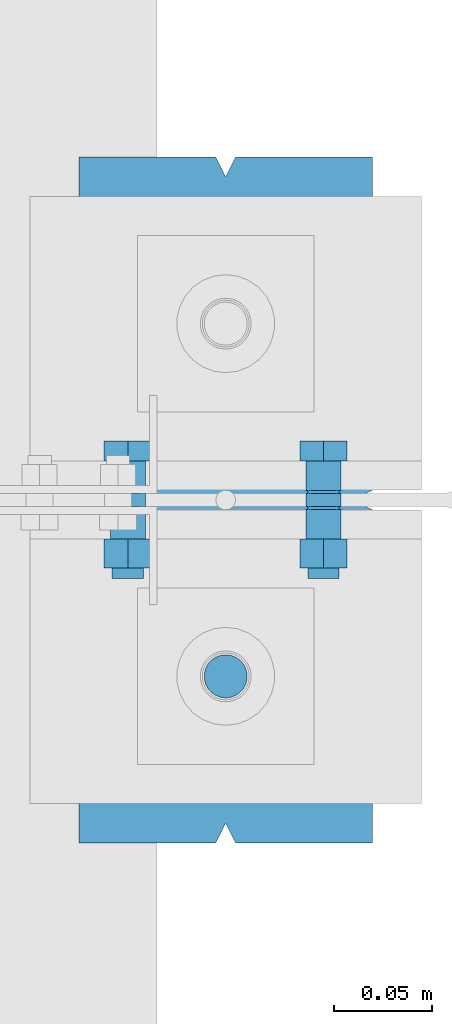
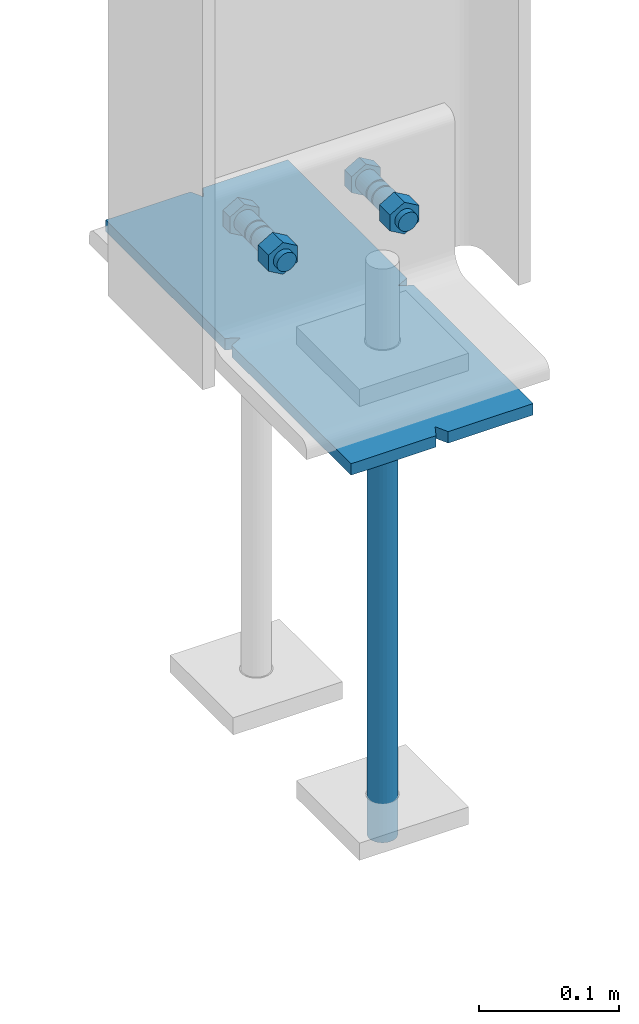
# One storey, part 61 of 123: 2 discrete accessories, 1 mechanical fastener, 2 elements without a shape of their own.
"""IFC2X3 building model written with IfcOpenShell, lengths in millimetres."""

from ifc_helpers import new_model, si_unit, frame, origin_with_axes, origin_2d_with_axis, place, context, subcontext, project, spatial, polyline, circle, outline, extrude, boolean, source, transform, mapped, material, type_object, element, aggregate, save


model = new_model("IFC2X3")

# Units and contexts
model_context = context("Model", 3, precision=1e-05, world=origin_with_axes())
body_context = subcontext(model_context, "Body", "Model", "MODEL_VIEW")
ifc_project = project(units=[si_unit("LENGTHUNIT", "METRE", prefix="MILLI"), si_unit("AREAUNIT", "SQUARE_METRE"), si_unit("VOLUMEUNIT", "CUBIC_METRE"), si_unit("MASSUNIT", "GRAM", prefix="KILO"), si_unit("TIMEUNIT", "SECOND"), si_unit("PLANEANGLEUNIT", "RADIAN"), si_unit("SOLIDANGLEUNIT", "STERADIAN"), si_unit("THERMODYNAMICTEMPERATUREUNIT", "DEGREE_CELSIUS"), si_unit("LUMINOUSINTENSITYUNIT", "LUMEN")], contexts=[model_context])

# Site, building, storey
site_placement = place(None, origin_with_axes())
site = spatial("IfcSite", under=ifc_project, at=site_placement, Name="Undefined", CompositionType="ELEMENT")
building_placement = place(site_placement, origin_with_axes())
building = spatial("IfcBuilding", under=site, at=building_placement, Name="Undefined", CompositionType="ELEMENT")
storey_placement = place(building_placement, origin_with_axes())
storey = spatial("IfcBuildingStorey", under=building, at=storey_placement, Name="Undefined", CompositionType="ELEMENT", Elevation=0.0)

# Assembly, discrete accessories
assembly_1_placement = place(storey_placement, origin_with_axes())
assembly_1 = element("IfcElementAssembly", 1, at=assembly_1_placement, inside=storey, Name="Steel Assembly", AssemblyPlace="NOTDEFINED", PredefinedType="RIGID_FRAME")
ifc_material_1 = material(Name="STEEL/S235-E24")
discrete_accessory_type_1 = type_object("IfcDiscreteAccessoryType", Name="TIGE D'ANCRAGE")
discrete_accessory_1_placement = place(assembly_1_placement, frame((-45.0, 3709.99715044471, -300.0), z_axis=(-1.0, 0.0, 0.0), x_axis=(0.0, 0.0, -1.0)))
discrete_accessory_1 = element("IfcDiscreteAccessory", 2, at=discrete_accessory_1_placement, type_object=discrete_accessory_type_1, material=ifc_material_1, Name="TIGE D'ANCRAGE", ObjectType="D22", context=body_context, shape_type="SweptSolid", body=[
    extrude(circle(Radius=11.0, at=origin_2d_with_axis()), frame((350.0, 0.0, 0.0), z_axis=(-1.0, 0.0, 0.0), x_axis=(0.0, -1.0, 0.0)), (0.0, 0.0, 1.0), 350.0),
])
discrete_accessory_type_2 = type_object("IfcDiscreteAccessoryType", Name="PRESCELLEMENT PS24")
discrete_accessory_2_placement = place(assembly_1_placement, frame((-45.0, 3975.0, -255.0), z_axis=(0.0, 0.0, 1.0), x_axis=(0.0, -1.0, 0.0)))
discrete_accessory_2 = element("IfcDiscreteAccessory", 3, at=discrete_accessory_2_placement, type_object=discrete_accessory_type_2, material=ifc_material_1, Name="PRESCELLEMENT PS24", ObjectType="PL10*150", context=body_context, shape_type="CSG", body=[
    boolean("DIFFERENCE", boolean("DIFFERENCE", boolean("DIFFERENCE", boolean("DIFFERENCE", extrude(outline(polyline([(9.99999993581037, -3.76858224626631e-08), (0.0, 5.00000014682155), (0.0, 75.0), (170.0, 75.0), (174.999999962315, 65.0000000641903), (180.000000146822, 75.0), (350.0, 75.0), (350.0, 5.00000018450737), (340.0, 0.0), (350.0, -4.99999996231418), (350.0, -75.0), (180.0, -75.0), (175.000000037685, -65.0000000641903), (169.999999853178, -74.9999999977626), (0.0, -75.0), (0.0, -5.0), (9.99999993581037, -3.76858224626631e-08)])), frame((0.0, 0.0, -5.0), z_axis=(0.0, 0.0, 1.0), x_axis=(1.0, 0.0, 0.0)), (0.0, 0.0, 1.0), 10.0), extrude(outline(polyline([(0.0, 0.0), (11.1803398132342, 1.2732925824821e-11), (4.47213602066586, 8.94427204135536), (0.0, 0.0)])), frame((0.0, -5.0, -7.5), z_axis=(0.0, 0.0, 1.0), x_axis=(0.89442719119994, 0.44721359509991, 0.0)), (0.0, 0.0, 1.0), 15.0)), extrude(outline(polyline([(0.0, 0.0), (11.1803398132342, 1.2732925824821e-11), (4.47213602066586, 8.94427204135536), (0.0, 0.0)])), frame((180.0, -75.0, -7.5), z_axis=(0.0, 0.0, 1.0), x_axis=(-0.447213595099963, 0.894427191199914, 0.0)), (0.0, 0.0, 1.0), 15.0)), extrude(outline(polyline([(0.0, 0.0), (11.1803398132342, 1.2732925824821e-11), (6.70820379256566, 8.94427204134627), (0.0, 0.0)])), frame((340.0, 0.0, -7.5), z_axis=(0.0, 0.0, 1.0), x_axis=(0.89442719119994, -0.44721359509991, 0.0)), (0.0, 0.0, 1.0), 15.0)), extrude(outline(polyline([(0.0, 0.0), (11.1803398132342, 1.2732925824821e-11), (4.47213602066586, 8.94427204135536), (0.0, 0.0)])), frame((170.0, 75.0, -7.5), z_axis=(0.0, 0.0, 1.0), x_axis=(0.447213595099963, -0.894427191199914, 0.0)), (0.0, 0.0, 1.0), 15.0)),
])
aggregate(assembly_1, [discrete_accessory_1, discrete_accessory_2])

# Assembly, mechanical fastener
assembly_2_placement = place(storey_placement, origin_with_axes())
assembly_2 = element("IfcElementAssembly", 4, at=assembly_2_placement, inside=storey, Name="Steel Assembly", AssemblyPlace="NOTDEFINED", PredefinedType="RIGID_FRAME")
ifc_material_2 = material(Name="8.8-SB-Z")
discrete_accessory_type_3 = type_object("IfcDiscreteAccessoryType", Name="Bolt assembly")
shared_shape = source(origin_with_axes(), body_context, "Body", "SweptSolid", [
    extrude(circle(Radius=9.0, at=origin_2d_with_axis()), frame((0.0, -3.29999995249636, 0.0), z_axis=(0.0, 1.0, 0.0), x_axis=(1.0, 0.0, 0.0)), (0.0, 0.0, 1.0), 6.6),
    extrude(circle(Radius=9.0, at=origin_2d_with_axis()), frame((0.0, 4.90000000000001, 0.0), z_axis=(0.0, 1.0, 0.0), x_axis=(1.0, 0.0, 0.0)), (0.0, 0.0, 1.0), 15.1),
    extrude(circle(Radius=9.0, at=origin_2d_with_axis()), frame((0.0, -19.9, 0.0), z_axis=(0.0, 1.0, 0.0), x_axis=(1.0, 0.0, 0.0)), (0.0, 0.0, 1.0), 15.0),
    extrude(outline(polyline([(13.85640646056, 0.0), (6.92820323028, 12.0000000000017), (-6.92820323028, 12.0000000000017), (-13.85640646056, 0.0), (-6.92820323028, -12.0000000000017), (6.92820323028, -12.0000000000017), (13.85640646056, 0.0)])), frame((0.0, -30.0, 0.0), z_axis=(0.0, 1.0, 0.0), x_axis=(1.0, 0.0, 0.0)), (0.0, 0.0, 1.0), 10.0),
    extrude(circle(Radius=8.0, at=origin_2d_with_axis()), frame((0.0, -20.0, 0.0), z_axis=(0.0, 1.0, 0.0), x_axis=(1.0, 0.0, 0.0)), (0.0, 0.0, 1.0), 60.0),
    extrude(outline(polyline([(13.85640646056, 0.0), (6.92820323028, 12.0000000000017), (-6.92820323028, 12.0000000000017), (-13.85640646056, 0.0), (-6.92820323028, -12.0000000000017), (6.92820323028, -12.0000000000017), (13.85640646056, 0.0)])), frame((0.0, 20.0, 0.0), z_axis=(0.0, 1.0, 0.0), x_axis=(1.0, 0.0, 0.0)), (0.0, 0.0, 1.0), 14.8),
])
mechanical_fastener_placement = place(assembly_2_placement, frame((-45.0, 3800.0, -165.0), z_axis=(-1.0, 0.0, 0.0), x_axis=(0.0, 0.0, -1.0)))
mechanical_fastener = element("IfcMechanicalFastener", 5, at=mechanical_fastener_placement, type_object=discrete_accessory_type_3, material=ifc_material_2, Name="Bolt assembly", NominalDiameter=16.0, NominalLength=60.0, context=body_context, shape_type="MappedRepresentation", body=[
    mapped(shared_shape, transform((0.0, 0.0, -50.0))),
    mapped(shared_shape, transform((0.0, 0.0, 50.0))),
])
aggregate(assembly_2, [mechanical_fastener])

save(model, "model.ifc")
